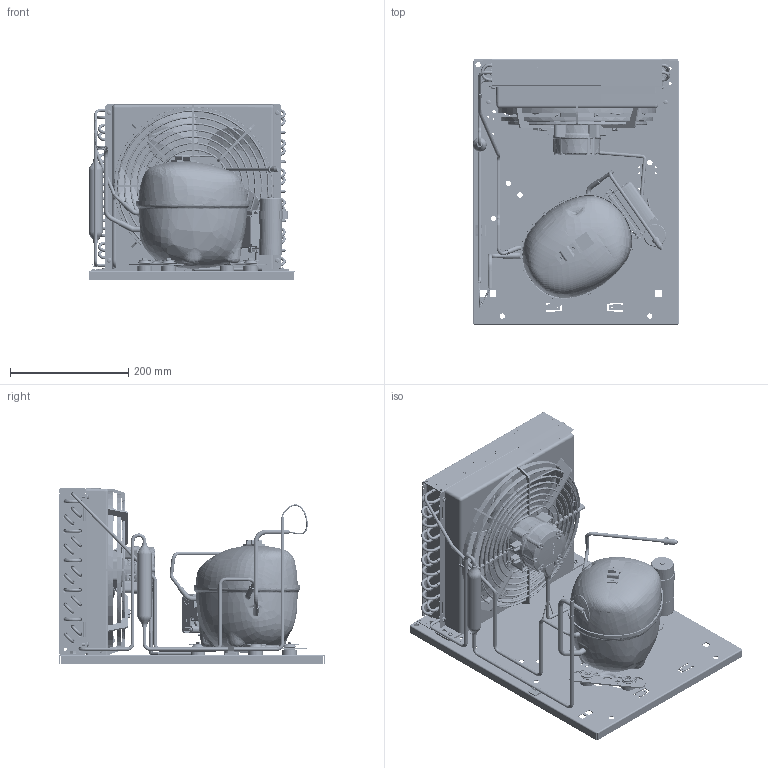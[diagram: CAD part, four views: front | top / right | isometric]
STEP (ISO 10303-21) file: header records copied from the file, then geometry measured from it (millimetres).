
FILE_DESCRIPTION(/* description */ ('Unknown'),/* implementation_level */ '2;1');
FILE_NAME(/* name */ '2298-0082',/* time_stamp */ '2022-12-21T11:49:20+01:00',/* author */ ('Unknown'),/* organization */ ('Unknown'),/* preprocessor_version */ 'ST-DEVELOPER v16.7',/* originating_system */ 'Solid Edge',/* authorisation */ 'Unknown');
FILE_SCHEMA (('AUTOMOTIVE_DESIGN {1 0 10303 214 3 1 1}'));
Products named in the file (43): 2298-0082; 7000-0446_COVER; 92505122_oa_0; 99000082_secop; 1130270FI0; rl5010606; rl5010607; r59a00320; RL5019401; 2905052522; 2905051820; rn5003508; r57a00320; RL5025004; 6803-2312; 84a4.2x9.5xtbcf01; 84DM6X5.2XXESRF00; cg254n; 84fm6x8xxxxtesf00; 62010150; 118-3661; 84RM10X21XXPIAF00; 118-7353; 680065982; GFN30_62-62; 6803-1592; 99540010; 6803-1604; 2992137_oa_1; A254-28; 9221-0002; 84dm4x3.6xxesrf00; 99500100; 6804-0904; 7000-0448; 2298-0069 CAVO_VENTOLA; 99000321; 99000324; 99000326; 99000327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
Assembly tree (89 placements, depth 3):
  2298-0082
    7000-0446_COVER
    92505122_oa_0
    99000082_secop
    1130270FI0
      rl5010606
      rl5010607
      r59a00320  x5
      RL5019401
      2905052522  x5
      2905051820  x10
      rn5003508
      r57a00320  x11
      RL5025004  x2
    6803-2312
    84a4.2x9.5xtbcf01  x6
    84DM6X5.2XXESRF00  x2
    cg254n
    84fm6x8xxxxtesf00  x2
    62010150
    118-3661  x4
    84RM10X21XXPIAF00  x4
    118-7353  x4
    680065982
    GFN30_62-62
    6803-1592
    99540010
    6803-1604
    2992137_oa_1
    A254-28
    9221-0002
    84dm4x3.6xxesrf00  x4
    99500100
    6804-0904
    7000-0448
    2298-0069 CAVO_VENTOLA
    99000321
    99000324
    99000326
    99000327
    99000082_SECOP_F-GAS
    99000205
    99100226
Bounding box: 350.3 x 450 x 297.36 mm (x, y, z)
Volume: 4055599.8 mm3; surface area: 2066631.4 mm2
Topology: 88 solids, 99 shells, 14387 faces, 38105 edges, 24453 vertices
Faces by surface type: plane 6866, cylinder 2915, bspline 2547, torus 1326, cone 619, sphere 114
Full cylindrical faces by diameter (mm): 1.2 x4, 1.3 x2, 1.5 x2, 1.8 x2, 1.945 x3, 2 x20, 2.2 x8, 2.3 x13, 2.45 x6, 3 x3, 3.14 x6, 3.15 x4, 3.2 x1, 3.242 x4, 3.375 x1, 3.5 x26, 3.6 x1, 4 x39, 4.2 x26, 4.205 x11, 4.5 x41, 4.8 x7, 5 x76, 5.196 x1, 5.2 x2, 5.4 x4, 5.48 x60, 5.5 x15, 5.7 x1, 6 x26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
Entity records: 865634 total; most frequent: CARTESIAN_POINT 485886, ORIENTED_EDGE 70504, DIRECTION 52989, EDGE_CURVE 35253, VERTEX_POINT 23222, AXIS2_PLACEMENT_3D 19238, EDGE_LOOP 16228, FACE_BOUND 16228
